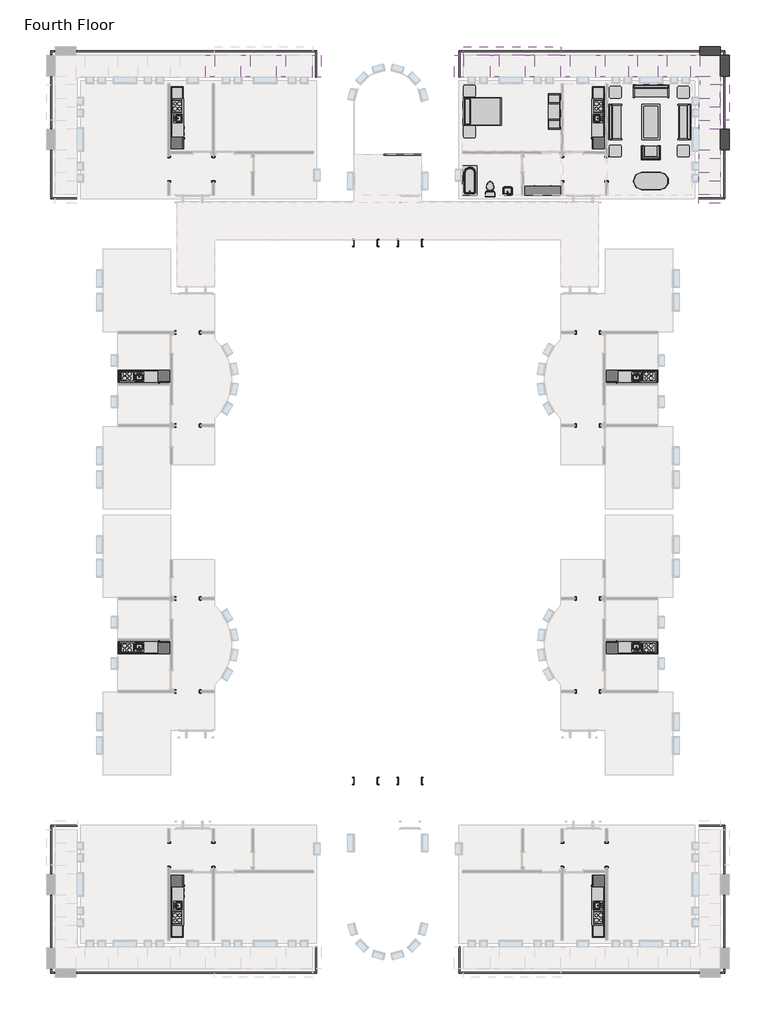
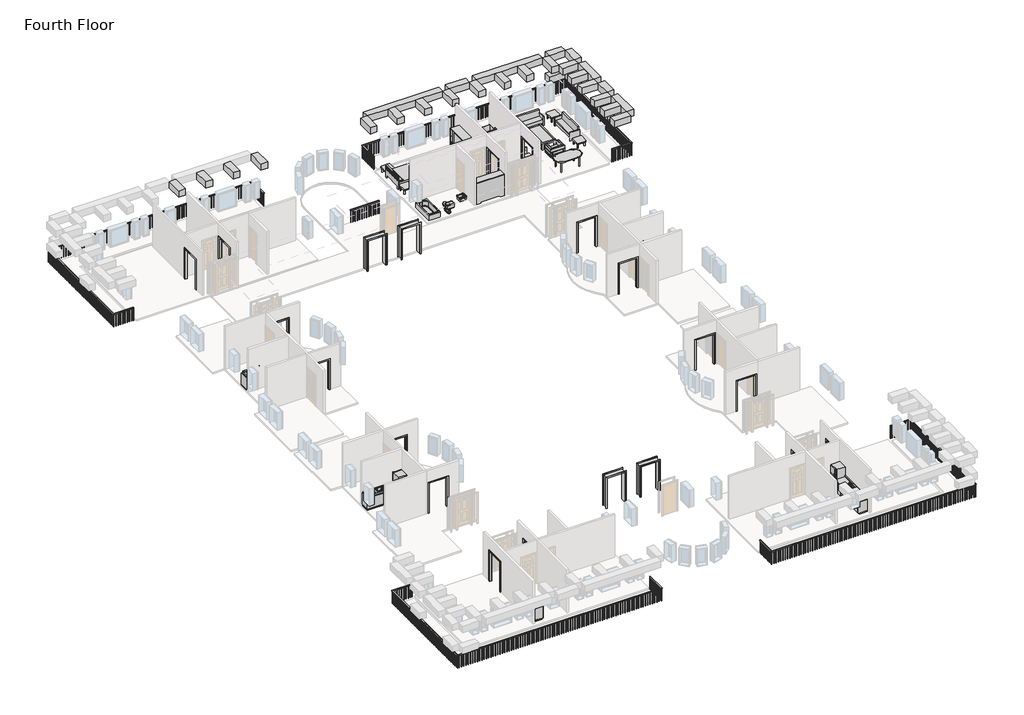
# One storey, part 5 of 5: 28 proxies, 23 beams, 15 furniture elements, 5 railings, 3 flow terminals.
"""IFC4 building model written with IfcOpenShell, lengths in millimetres."""

from ifc_helpers import new_model, si_unit, frame, origin, place, context, project, spatial, polyline, outline, extrude, faceted_brep, transform, mapped, element, save
from components import kitchenette_medium_5_9f73a4de, kitchenette_medium_5_952fb32b, proxy_64a468c4, proxy_b7eaed23, proxy_f44482cc, proxy_c3589814, proxy_d58c73d0, proxy_1659ed5c, flow_terminal_0aeb31e3, toilet_domestic_3d_toilet_domestic_3d_f7549cf7, toilet_domestic_3d_toilet_domestic_3d_183bbd19, tub_rectangular_3d_tub_rectangular_3d_5e45a89b, furniture_096e7f55, chair_corbu_chair_corbu_2764bdef, furniture_7c473f12, furniture_ddc78764, furniture_4ef38d96, furniture_cd93a443, furniture_2c34a4f9, furniture_3a588284, furniture_1befe2a2, handrail_rectangular_d296d626, handrail_rectangular_3cb95b5f, handrail_rectangular_46134f40, handrail_rectangular_d3f7d17f, handrail_rectangular_77feda68

model = new_model("IFC4")

# Units and contexts
model_context = context("Model", 3, world=origin())
ifc_project = project(units=[si_unit("LENGTHUNIT", "METRE", prefix="MILLI")], contexts=[model_context])

# Site, building, storey
site = spatial("IfcSite", under=ifc_project)
building = spatial("IfcBuilding", under=site)
storey = spatial("IfcBuildingStorey", under=building, Name="Fourth Floor", Elevation=9144.0)

# Beams
placement = place(None, origin())
element("IfcBeam", 1, ObjectType="Concrete-Rectangular Beam : 18 x 18", at=placement, inside=storey, context=model_context, shape_type="Brep", body=[
    faceted_brep([(2093.9410437, 11741.6316867, 12192.0), (2093.9410437, 12198.8316867, 12192.0), (1027.1410437, 12198.8316867, 12192.0), (1027.1410437, 11741.6316867, 12192.0), (2093.9410437, 11741.6316867, 11734.8), (1027.1410437, 11741.6316867, 11734.8), (2093.9410437, 12198.8316867, 11734.8), (1027.1410437, 12198.8316867, 11734.8)], [[[0, 1, 2, 3]], [[4, 0, 3, 5]], [[6, 4, 5, 7]], [[1, 6, 7, 2]], [[1, 0, 4, 6]], [[3, 2, 7, 5]]]),
    faceted_brep([(569.9410437, 12198.8316867, 12192.0), (569.9410437, 11741.6316867, 12192.0), (569.9410437, 11741.6316867, 11734.8), (569.9410437, 12198.8316867, 11734.8), (-3862.3589563, 12198.8316867, 12192.0), (-3862.3589563, 11741.6316867, 12192.0), (-2636.8089563, 11741.6316867, 12192.0), (-2179.6089563, 11741.6316867, 12192.0), (-1112.8089563, 11741.6316867, 12192.0), (-655.6089563, 11741.6316867, 12192.0), (-3862.3589563, 11741.6316867, 11734.8), (-2636.8089563, 11741.6316867, 11734.8), (-2179.6089563, 11741.6316867, 11734.8), (-1112.8089563, 11741.6316867, 11734.8), (-655.6089563, 11741.6316867, 11734.8), (-3862.3589563, 12198.8316867, 11734.8)], [[[0, 1, 2, 3]], [[1, 0, 4, 5, 6, 7, 8, 9]], [[2, 1, 9, 8, 7, 6, 5, 10, 11, 12, 13, 14]], [[3, 2, 14, 13, 12, 11, 10, 15]], [[0, 3, 15, 4]], [[5, 4, 15, 10]]]),
    faceted_brep([(-5665.7589563, 11741.6316867, 12192.0), (-5665.7589563, 12198.8316867, 12192.0), (-5665.7589563, 12198.8316867, 11734.8), (-5665.7589563, 11741.6316867, 11734.8), (-4319.5589563, 12198.8316867, 12192.0), (-4319.5589563, 11741.6316867, 12192.0), (-4319.5589563, 11741.6316867, 11734.8), (-4319.5589563, 12198.8316867, 11734.8)], [[[0, 1, 2, 3]], [[4, 5, 6, 7]], [[1, 0, 5, 4]], [[0, 3, 6, 5]], [[3, 2, 7, 6]], [[2, 1, 4, 7]]]),
    faceted_brep([(-6122.9589563, 12198.8316867, 12192.0), (-6122.9589563, 11741.6316867, 12192.0), (-6122.9589563, 11741.6316867, 11734.8), (-6122.9589563, 12198.8316867, 11734.8), (-11164.8589563, 12198.8316867, 12192.0), (-11164.8589563, 11741.6316867, 12192.0), (-9780.5589563, 11741.6316867, 12192.0), (-9323.3589563, 11741.6316867, 12192.0), (-7951.7589563, 11741.6316867, 12192.0), (-7494.5589563, 11741.6316867, 12192.0), (-11164.8589563, 11741.6316867, 11734.8), (-9780.5589563, 11741.6316867, 11734.8), (-9323.3589563, 11741.6316867, 11734.8), (-7951.7589563, 11741.6316867, 11734.8), (-7494.5589563, 11741.6316867, 11734.8), (-11164.8589563, 12198.8316867, 11734.8)], [[[0, 1, 2, 3]], [[1, 0, 4, 5, 6, 7, 8, 9]], [[2, 1, 9, 8, 7, 6, 5, 10, 11, 12, 13, 14]], [[3, 2, 14, 13, 12, 11, 10, 15]], [[0, 3, 15, 4]], [[5, 4, 15, 10]]]),
])
element("IfcBeam", 2, ObjectType="Concrete-Rectangular Beam : 18 x 18", at=placement, inside=storey, context=model_context, shape_type="Brep", body=[
    faceted_brep([(2551.1410437, 11741.6316867, 12192.0), (2093.9410437, 11741.6316867, 12192.0), (2093.9410437, 10674.8316867, 12192.0), (2551.1410437, 10674.8316867, 12192.0), (2093.9410437, 11741.6316867, 11734.8), (2093.9410437, 10674.8316867, 11734.8), (2551.1410437, 11741.6316867, 11734.8), (2551.1410437, 10674.8316867, 11734.8)], [[[0, 1, 2, 3]], [[1, 4, 5, 2]], [[4, 6, 7, 5]], [[6, 0, 3, 7]], [[4, 1, 0, 6]], [[3, 2, 5, 7]]]),
    faceted_brep([(2551.1410437, 4578.8316867, 12192.0), (2093.9410437, 4578.8316867, 12192.0), (2093.9410437, 4578.8316867, 11734.8), (2551.1410437, 4578.8316867, 11734.8), (2093.9410437, 6407.6316867, 12192.0), (2551.1410437, 6407.6316867, 12192.0), (2551.1410437, 6407.6316867, 11734.8), (2093.9410437, 6407.6316867, 11734.8), (2093.9410437, 5721.8316867, 12192.0), (2093.9410437, 5264.6316867, 12192.0), (2093.9410437, 5721.8316867, 11734.8), (2093.9410437, 5264.6316867, 11734.8)], [[[0, 1, 2, 3]], [[4, 5, 6, 7]], [[1, 0, 5, 4, 8, 9]], [[2, 1, 9, 8, 4, 7, 10, 11]], [[3, 2, 11, 10, 7, 6]], [[0, 3, 6, 5]]]),
    faceted_brep([(2551.1410437, 6864.8316867, 12192.0), (2093.9410437, 6864.8316867, 12192.0), (2093.9410437, 6864.8316867, 11734.8), (2551.1410437, 6864.8316867, 11734.8), (2551.1410437, 7931.6316867, 12192.0), (2093.9410437, 7931.6316867, 12192.0), (2093.9410437, 7931.6316867, 11734.8), (2551.1410437, 7931.6316867, 11734.8)], [[[0, 1, 2, 3]], [[1, 0, 4, 5]], [[2, 1, 5, 6]], [[3, 2, 6, 7]], [[0, 3, 7, 4]], [[5, 4, 7, 6]]]),
    faceted_brep([(2093.9410437, 10217.6316867, 12192.0), (2551.1410437, 10217.6316867, 12192.0), (2551.1410437, 10217.6316867, 11734.8), (2093.9410437, 10217.6316867, 11734.8), (2551.1410437, 8388.8316867, 12192.0), (2093.9410437, 8388.8316867, 12192.0), (2093.9410437, 8388.8316867, 11734.8), (2551.1410437, 8388.8316867, 11734.8), (2093.9410437, 9531.8316867, 12192.0), (2093.9410437, 9074.6316867, 12192.0), (2093.9410437, 9531.8316867, 11734.8), (2093.9410437, 9074.6316867, 11734.8)], [[[0, 1, 2, 3]], [[4, 5, 6, 7]], [[1, 0, 8, 9, 5, 4]], [[0, 3, 10, 11, 6, 5, 9, 8]], [[3, 2, 7, 6, 11, 10]], [[2, 1, 4, 7]]]),
])
element("IfcBeam", 3, ObjectType="Concrete-Rectangular Beam : 18 x 18", at=placement, inside=storey, context=model_context, shape_type="SweptSolid", body=[
    extrude(outline(polyline([(2093.9410437, 12198.8316867), (2093.9410437, 11741.6316867), (1027.1410437, 11741.6316867), (1027.1410437, 12198.8316867), (2093.9410437, 12198.8316867)])), frame((0.0, 0.0, 10210.8), z_axis=(0.0, 0.0, 1.0), x_axis=(1.0, 0.0, 0.0)), (0.0, 0.0, 1.0), 457.2),
])
element("IfcBeam", 4, ObjectType="Concrete-Rectangular Beam : 18 x 18", at=placement, inside=storey, context=model_context, shape_type="SweptSolid", body=[
    extrude(outline(polyline([(2551.1410437, 10674.8316867), (2093.9410437, 10674.8316867), (2093.9410437, 11741.6316867), (2551.1410437, 11741.6316867), (2551.1410437, 10674.8316867)])), frame((0.0, 0.0, 10210.8), z_axis=(0.0, 0.0, 1.0), x_axis=(1.0, 0.0, 0.0)), (0.0, 0.0, 1.0), 457.2),
])
element("IfcBeam", 5, ObjectType="Concrete-Rectangular Beam : 18 x 18", at=placement, inside=storey, context=model_context, shape_type="SweptSolid", body=[
    extrude(outline(polyline([(-11164.8589563, 10624.0316867), (-11622.0589563, 10624.0316867), (-11622.0589563, 11741.6316867), (-11164.8589563, 11741.6316867), (-11164.8589563, 10624.0316867)])), frame((0.0, 0.0, 11734.8), z_axis=(0.0, 0.0, 1.0), x_axis=(1.0, 0.0, 0.0)), (0.0, 0.0, 1.0), 457.2),
])
element("IfcBeam", 6, ObjectType="Concrete-Rectangular Beam : 18 x 18", at=placement, inside=storey, context=model_context, shape_type="SweptSolid", body=[
    extrude(outline(polyline([(-5665.7589563, 10643.0816867), (-6122.9589563, 10643.0816867), (-6122.9589563, 11741.6316867), (-5665.7589563, 11741.6316867), (-5665.7589563, 10643.0816867)])), frame((0.0, 0.0, 11734.8), z_axis=(0.0, 0.0, 1.0), x_axis=(1.0, 0.0, 0.0)), (0.0, 0.0, 1.0), 457.2),
])
element("IfcBeam", 7, ObjectType="Concrete-Rectangular Beam : 18 x 18", at=placement, inside=storey, context=model_context, shape_type="SweptSolid", body=[
    extrude(outline(polyline([(1001.7410437, 6407.6316867), (1001.7410437, 6864.8316867), (2093.9410437, 6864.8316867), (2093.9410437, 6407.6316867), (1001.7410437, 6407.6316867)])), frame((0.0, 0.0, 11734.8), z_axis=(0.0, 0.0, 1.0), x_axis=(1.0, 0.0, 0.0)), (0.0, 0.0, 1.0), 457.2),
])
element("IfcBeam", 8, ObjectType="Concrete-Rectangular Beam : 18 x 18", at=placement, inside=storey, context=model_context, shape_type="SweptSolid", body=[
    extrude(outline(polyline([(-3862.3589563, 10643.0816867), (-4319.5589563, 10643.0816867), (-4319.5589563, 11741.6316867), (-3862.3589563, 11741.6316867), (-3862.3589563, 10643.0816867)])), frame((0.0, 0.0, 11734.8), z_axis=(0.0, 0.0, 1.0), x_axis=(1.0, 0.0, 0.0)), (0.0, 0.0, 1.0), 457.2),
])
element("IfcBeam", 9, ObjectType="Concrete-Rectangular Beam : 18 x 18", at=placement, inside=storey, context=model_context, shape_type="SweptSolid", body=[
    extrude(outline(polyline([(1001.7410437, 7931.6316867), (1001.7410437, 8388.8316867), (2093.9410437, 8388.8316867), (2093.9410437, 7931.6316867), (1001.7410437, 7931.6316867)])), frame((0.0, 0.0, 11734.8), z_axis=(0.0, 0.0, 1.0), x_axis=(1.0, 0.0, 0.0)), (0.0, 0.0, 1.0), 457.2),
])
element("IfcBeam", 10, ObjectType="Concrete-Rectangular Beam : 18 x 18", at=placement, inside=storey, context=model_context, shape_type="SweptSolid", body=[
    extrude(outline(polyline([(976.3410437, 4121.6316867), (976.3410437, 4578.8316867), (2093.9410437, 4578.8316867), (2093.9410437, 4121.6316867), (976.3410437, 4121.6316867)])), frame((0.0, 0.0, 11734.8), z_axis=(0.0, 0.0, 1.0), x_axis=(1.0, 0.0, 0.0)), (0.0, 0.0, 1.0), 457.2),
])
element("IfcBeam", 11, ObjectType="Concrete-Rectangular Beam : 18 x 18", at=placement, inside=storey, context=model_context, shape_type="SweptSolid", body=[
    extrude(outline(polyline([(976.3410437, 5264.6316867), (976.3410437, 5721.8316867), (2093.9410437, 5721.8316867), (2093.9410437, 5264.6316867), (976.3410437, 5264.6316867)])), frame((0.0, 0.0, 11734.8), z_axis=(0.0, 0.0, 1.0), x_axis=(1.0, 0.0, 0.0)), (0.0, 0.0, 1.0), 457.2),
])
element("IfcBeam", 12, ObjectType="Concrete-Rectangular Beam : 18 x 18", at=placement, inside=storey, context=model_context, shape_type="SweptSolid", body=[
    extrude(outline(polyline([(1027.1410437, 10643.0816867), (569.9410437, 10643.0816867), (569.9410437, 11741.6316867), (1027.1410437, 11741.6316867), (1027.1410437, 10643.0816867)])), frame((0.0, 0.0, 11734.8), z_axis=(0.0, 0.0, 1.0), x_axis=(1.0, 0.0, 0.0)), (0.0, 0.0, 1.0), 457.2),
])
element("IfcBeam", 13, ObjectType="Concrete-Rectangular Beam : 18 x 18", at=placement, inside=storey, context=model_context, shape_type="SweptSolid", body=[
    extrude(outline(polyline([(1052.5410437, 10217.6316867), (1052.5410437, 10674.8316867), (2093.9410437, 10674.8316867), (2093.9410437, 10217.6316867), (1052.5410437, 10217.6316867)])), frame((0.0, 0.0, 11734.8), z_axis=(0.0, 0.0, 1.0), x_axis=(1.0, 0.0, 0.0)), (0.0, 0.0, 1.0), 457.2),
])
element("IfcBeam", 14, ObjectType="Concrete-Rectangular Beam : 18 x 18", at=placement, inside=storey, context=model_context, shape_type="SweptSolid", body=[
    extrude(outline(polyline([(1001.7410437, 9074.6316867), (1001.7410437, 9531.8316867), (2093.9410437, 9531.8316867), (2093.9410437, 9074.6316867), (1001.7410437, 9074.6316867)])), frame((0.0, 0.0, 11734.8), z_axis=(0.0, 0.0, 1.0), x_axis=(1.0, 0.0, 0.0)), (0.0, 0.0, 1.0), 457.2),
])
element("IfcBeam", 15, ObjectType="Concrete-Rectangular Beam : 18 x 18", at=placement, inside=storey, context=model_context, shape_type="SweptSolid", body=[
    extrude(outline(polyline([(-2179.6089563, 10643.0816867), (-2636.8089563, 10643.0816867), (-2636.8089563, 11741.6316867), (-2179.6089563, 11741.6316867), (-2179.6089563, 10643.0816867)])), frame((0.0, 0.0, 11734.8), z_axis=(0.0, 0.0, 1.0), x_axis=(1.0, 0.0, 0.0)), (0.0, 0.0, 1.0), 457.2),
])
element("IfcBeam", 16, ObjectType="Concrete-Rectangular Beam : 18 x 18", at=placement, inside=storey, context=model_context, shape_type="SweptSolid", body=[
    extrude(outline(polyline([(-655.6089563, 10643.0816867), (-1112.8089563, 10643.0816867), (-1112.8089563, 11741.6316867), (-655.6089563, 11741.6316867), (-655.6089563, 10643.0816867)])), frame((0.0, 0.0, 11734.8), z_axis=(0.0, 0.0, 1.0), x_axis=(1.0, 0.0, 0.0)), (0.0, 0.0, 1.0), 457.2),
])
element("IfcBeam", 17, ObjectType="Concrete-Rectangular Beam : 18 x 18", at=placement, inside=storey, context=model_context, shape_type="SweptSolid", body=[
    extrude(outline(polyline([(-7494.5589563, 10643.0816867), (-7951.7589563, 10643.0816867), (-7951.7589563, 11741.6316867), (-7494.5589563, 11741.6316867), (-7494.5589563, 10643.0816867)])), frame((0.0, 0.0, 11734.8), z_axis=(0.0, 0.0, 1.0), x_axis=(1.0, 0.0, 0.0)), (0.0, 0.0, 1.0), 457.2),
])
element("IfcBeam", 18, ObjectType="Concrete-Rectangular Beam : 18 x 18", at=placement, inside=storey, context=model_context, shape_type="SweptSolid", body=[
    extrude(outline(polyline([(-9323.3589563, 10643.0816867), (-9780.5589563, 10643.0816867), (-9780.5589563, 11741.6316867), (-9323.3589563, 11741.6316867), (-9323.3589563, 10643.0816867)])), frame((0.0, 0.0, 11734.8), z_axis=(0.0, 0.0, 1.0), x_axis=(1.0, 0.0, 0.0)), (0.0, 0.0, 1.0), 457.2),
])
element("IfcBeam", 19, ObjectType="Concrete-Rectangular Beam : 18 x 18", at=placement, inside=storey, context=model_context, shape_type="SweptSolid", body=[
    extrude(outline(polyline([(2551.1410437, 6864.8316867), (2093.9410437, 6864.8316867), (2093.9410437, 7931.6316867), (2551.1410437, 7931.6316867), (2551.1410437, 6864.8316867)])), frame((0.0, 0.0, 10210.8), z_axis=(0.0, 0.0, 1.0), x_axis=(1.0, 0.0, 0.0)), (0.0, 0.0, 1.0), 457.2),
])
element("IfcBeam", 20, ObjectType="Concrete-Rectangular Beam : 18 x 18", at=placement, inside=storey, context=model_context, shape_type="SweptSolid", body=[
    extrude(outline(polyline([(-18502.2839563, 10624.0316867), (-18959.4839563, 10624.0316867), (-18959.4839563, 11741.6316867), (-18502.2839563, 11741.6316867), (-18502.2839563, 10624.0316867)])), frame((0.0, 0.0, 11734.8), z_axis=(0.0, 0.0, 1.0), x_axis=(1.0, 0.0, 0.0)), (0.0, 0.0, 1.0), 457.2),
])
element("IfcBeam", 21, ObjectType="Concrete-Rectangular Beam : 18 x 18", at=placement, inside=storey, context=model_context, shape_type="SweptSolid", body=[
    extrude(outline(polyline([(-24001.3839563, 10643.0816867), (-24458.5839563, 10643.0816867), (-24458.5839563, 11741.6316867), (-24001.3839563, 11741.6316867), (-24001.3839563, 10643.0816867)])), frame((0.0, 0.0, 11734.8), z_axis=(0.0, 0.0, 1.0), x_axis=(1.0, 0.0, 0.0)), (0.0, 0.0, 1.0), 457.2),
])
element("IfcBeam", 22, ObjectType="Concrete-Rectangular Beam : 18 x 18", at=placement, inside=storey, context=model_context, shape_type="SweptSolid", body=[
    extrude(outline(polyline([(-22172.5839563, 10643.0816867), (-22629.7839563, 10643.0816867), (-22629.7839563, 11741.6316867), (-22172.5839563, 11741.6316867), (-22172.5839563, 10643.0816867)])), frame((0.0, 0.0, 11734.8), z_axis=(0.0, 0.0, 1.0), x_axis=(1.0, 0.0, 0.0)), (0.0, 0.0, 1.0), 457.2),
])
element("IfcBeam", 23, ObjectType="Concrete-Rectangular Beam : 18 x 18", at=placement, inside=storey, context=model_context, shape_type="SweptSolid", body=[
    extrude(outline(polyline([(-20343.7839563, 10643.0816867), (-20800.9839563, 10643.0816867), (-20800.9839563, 11741.6316867), (-20343.7839563, 11741.6316867), (-20343.7839563, 10643.0816867)])), frame((0.0, 0.0, 11734.8), z_axis=(0.0, 0.0, 1.0), x_axis=(1.0, 0.0, 0.0)), (0.0, 0.0, 1.0), 457.2),
])

# Proxies
kitchenette_medium_5_shape = kitchenette_medium_5_9f73a4de(model_context)
element("IfcBuildingElementProxy", 24, Name="Kitchenette - Medium : 5'", ObjectType="Kitchenette - Medium : 5'", at=placement, inside=storey, context=model_context, shape_type="MappedRepresentation", body=[
    mapped(kitchenette_medium_5_shape, transform((-28239.6966612, -4494.4827414, 9144.0), x_axis=(1.0, 0.0, 0.0), y_axis=(0.0, 1.0, 0.0), z_axis=(0.0, 0.0, 1.0))),
])
element("IfcBuildingElementProxy", 25, Name="Kitchenette - Medium : 5'", ObjectType="Kitchenette - Medium : 5'", at=placement, inside=storey, context=model_context, shape_type="MappedRepresentation", body=[
    mapped(kitchenette_medium_5_shape, transform((-1884.6462514, -19113.8538852, 9144.0), x_axis=(-1.0, 0.0, 0.0), y_axis=(0.0, -1.0, 0.0), z_axis=(0.0, 0.0, 1.0))),
])
kitchenette_medium_5_2_shape = kitchenette_medium_5_952fb32b(model_context)
element("IfcBuildingElementProxy", 26, Name="Kitchenette - Medium : 5'", ObjectType="Kitchenette - Medium : 5'", at=placement, inside=storey, context=model_context, shape_type="MappedRepresentation", body=[
    mapped(kitchenette_medium_5_2_shape, transform((-1884.6462514, -4494.4827414, 9144.0), x_axis=(-1.0, 0.0, 0.0), y_axis=(0.0, -1.0, 0.0), z_axis=(0.0, 0.0, 1.0))),
])
element("IfcBuildingElementProxy", 27, Name="Kitchenette - Medium : 5'", ObjectType="Kitchenette - Medium : 5'", at=placement, inside=storey, context=model_context, shape_type="MappedRepresentation", body=[
    mapped(kitchenette_medium_5_2_shape, transform((-28239.6966612, -19113.8538852, 9144.0), x_axis=(1.0, 0.0, 0.0), y_axis=(0.0, 1.0, 0.0), z_axis=(0.0, 0.0, 1.0))),
])
proxy_shape = proxy_64a468c4(model_context)
element("IfcBuildingElementProxy", 28, Name="Kitchenette - Medium : 8'6\"", ObjectType="Kitchenette - Medium : 8'6\"", at=placement, inside=storey, context=model_context, shape_type="MappedRepresentation", body=[
    mapped(proxy_shape, transform((-3887.7589563, 8837.7956433, 9144.0), x_axis=(0.0, -1.0, 0.0), y_axis=(1.0, 0.0, 0.0), z_axis=(0.0, 0.0, 1.0))),
])
element("IfcBuildingElementProxy", 29, Name="Kitchenette - Medium : 8'6\"", ObjectType="Kitchenette - Medium : 8'6\"", at=placement, inside=storey, context=model_context, shape_type="MappedRepresentation", body=[
    mapped(proxy_shape, transform((-26236.5839563, -32446.1322699, 9144.0), x_axis=(0.0, 1.0, 0.0), y_axis=(-1.0, 0.0, 0.0), z_axis=(0.0, 0.0, 1.0))),
])
proxy_2_shape = proxy_b7eaed23(model_context)
element("IfcBuildingElementProxy", 30, Name="Kitchenette - Medium : 8'6\"", ObjectType="Kitchenette - Medium : 8'6\"", at=placement, inside=storey, context=model_context, shape_type="MappedRepresentation", body=[
    mapped(proxy_2_shape, transform((-26236.5839563, 8837.7956433, 9144.0), x_axis=(0.0, -1.0, 0.0), y_axis=(1.0, 0.0, 0.0), z_axis=(0.0, 0.0, 1.0))),
])
element("IfcBuildingElementProxy", 31, Name="Kitchenette - Medium : 8'6\"", ObjectType="Kitchenette - Medium : 8'6\"", at=placement, inside=storey, context=model_context, shape_type="MappedRepresentation", body=[
    mapped(proxy_2_shape, transform((-3887.7589563, -32446.1322699, 9144.0), x_axis=(0.0, 1.0, 0.0), y_axis=(-1.0, 0.0, 0.0), z_axis=(0.0, 0.0, 1.0))),
])
proxy_3_shape = proxy_f44482cc(model_context)
element("IfcBuildingElementProxy", 32, Name="Opening-Cased : 48\" x 84\"", ObjectType="Opening-Cased : 48\" x 84\"", at=placement, inside=storey, context=model_context, shape_type="MappedRepresentation", body=[
    mapped(proxy_3_shape, transform((-3773.4589563, 5882.4203434, 9144.0), x_axis=(0.0, 1.0, 0.0), y_axis=(-1.0, 0.0, 0.0), z_axis=(0.0, 0.0, 1.0))),
])
element("IfcBuildingElementProxy", 33, Name="Opening-Cased : 48\" x 84\"", ObjectType="Opening-Cased : 48\" x 84\"", at=placement, inside=storey, context=model_context, shape_type="MappedRepresentation", body=[
    mapped(proxy_3_shape, transform((-6059.4589563, 5866.04303, 9144.0), x_axis=(0.0, -1.0, 0.0), y_axis=(1.0, 0.0, 0.0), z_axis=(0.0, 0.0, 1.0))),
])
element("IfcBuildingElementProxy", 34, Name="Opening-Cased : 48\" x 84\"", ObjectType="Opening-Cased : 48\" x 84\"", at=placement, inside=storey, context=model_context, shape_type="MappedRepresentation", body=[
    mapped(proxy_3_shape, transform((-25377.4952996, -7344.8808133, 9144.0), x_axis=(1.0, 0.0, 0.0), y_axis=(0.0, 1.0, 0.0), z_axis=(0.0, 0.0, 1.0))),
])
element("IfcBuildingElementProxy", 35, Name="Opening-Cased : 48\" x 84\"", ObjectType="Opening-Cased : 48\" x 84\"", at=placement, inside=storey, context=model_context, shape_type="MappedRepresentation", body=[
    mapped(proxy_3_shape, transform((-25393.872613, -2547.4558133, 9144.0), x_axis=(-1.0, 0.0, 0.0), y_axis=(0.0, -1.0, 0.0), z_axis=(0.0, 0.0, 1.0))),
])
element("IfcBuildingElementProxy", 36, Name="Opening-Cased : 48\" x 84\"", ObjectType="Opening-Cased : 48\" x 84\"", at=placement, inside=storey, context=model_context, shape_type="MappedRepresentation", body=[
    mapped(proxy_3_shape, transform((-4746.847613, -16263.4558133, 9144.0), x_axis=(-1.0, 0.0, 0.0), y_axis=(0.0, -1.0, 0.0), z_axis=(0.0, 0.0, 1.0))),
])
element("IfcBuildingElementProxy", 37, Name="Opening-Cased : 48\" x 84\"", ObjectType="Opening-Cased : 48\" x 84\"", at=placement, inside=storey, context=model_context, shape_type="MappedRepresentation", body=[
    mapped(proxy_3_shape, transform((-4730.4702996, -21060.8808133, 9144.0), x_axis=(1.0, 0.0, 0.0), y_axis=(0.0, 1.0, 0.0), z_axis=(0.0, 0.0, 1.0))),
])
element("IfcBuildingElementProxy", 38, Name="Opening-Cased : 48\" x 84\"", ObjectType="Opening-Cased : 48\" x 84\"", at=placement, inside=storey, context=model_context, shape_type="MappedRepresentation", body=[
    mapped(proxy_3_shape, transform((-26350.8839563, -29490.75697, 9144.0), x_axis=(0.0, -1.0, 0.0), y_axis=(1.0, 0.0, 0.0), z_axis=(0.0, 0.0, 1.0))),
])
element("IfcBuildingElementProxy", 39, Name="Opening-Cased : 48\" x 84\"", ObjectType="Opening-Cased : 48\" x 84\"", at=placement, inside=storey, context=model_context, shape_type="MappedRepresentation", body=[
    mapped(proxy_3_shape, transform((-24064.8839563, -29474.3796566, 9144.0), x_axis=(0.0, 1.0, 0.0), y_axis=(-1.0, 0.0, 0.0), z_axis=(0.0, 0.0, 1.0))),
])
proxy_4_shape = proxy_c3589814(model_context)
element("IfcBuildingElementProxy", 40, Name="Opening-Cased : 48\" x 84\"", ObjectType="Opening-Cased : 48\" x 84\"", at=placement, inside=storey, context=model_context, shape_type="MappedRepresentation", body=[
    mapped(proxy_4_shape, transform((-16213.360113, 2064.2316867, 9144.0), x_axis=(-1.0, 0.0, 0.0), y_axis=(0.0, -1.0, 0.0), z_axis=(0.0, 0.0, 1.0))),
])
element("IfcBuildingElementProxy", 41, Name="Opening-Cased : 48\" x 84\"", ObjectType="Opening-Cased : 48\" x 84\"", at=placement, inside=storey, context=model_context, shape_type="MappedRepresentation", body=[
    mapped(proxy_4_shape, transform((-13927.360113, 2064.2316867, 9144.0), x_axis=(-1.0, 0.0, 0.0), y_axis=(0.0, -1.0, 0.0), z_axis=(0.0, 0.0, 1.0))),
])
proxy_5_shape = proxy_d58c73d0(model_context)
element("IfcBuildingElementProxy", 42, Name="Opening-Cased : 48\" x 84\"", ObjectType="Opening-Cased : 48\" x 84\"", at=placement, inside=storey, context=model_context, shape_type="MappedRepresentation", body=[
    mapped(proxy_5_shape, transform((-4746.847613, -7344.8808133, 9144.0), x_axis=(-1.0, 0.0, 0.0), y_axis=(0.0, -1.0, 0.0), z_axis=(0.0, 0.0, 1.0))),
])
element("IfcBuildingElementProxy", 43, Name="Opening-Cased : 48\" x 84\"", ObjectType="Opening-Cased : 48\" x 84\"", at=placement, inside=storey, context=model_context, shape_type="MappedRepresentation", body=[
    mapped(proxy_5_shape, transform((-4730.4702996, -2547.4558133, 9144.0), x_axis=(1.0, 0.0, 0.0), y_axis=(0.0, 1.0, 0.0), z_axis=(0.0, 0.0, 1.0))),
])
element("IfcBuildingElementProxy", 44, Name="Opening-Cased : 48\" x 84\"", ObjectType="Opening-Cased : 48\" x 84\"", at=placement, inside=storey, context=model_context, shape_type="MappedRepresentation", body=[
    mapped(proxy_5_shape, transform((-26350.8839563, 5882.4203434, 9144.0), x_axis=(0.0, 1.0, 0.0), y_axis=(-1.0, 0.0, 0.0), z_axis=(0.0, 0.0, 1.0))),
])
element("IfcBuildingElementProxy", 45, Name="Opening-Cased : 48\" x 84\"", ObjectType="Opening-Cased : 48\" x 84\"", at=placement, inside=storey, context=model_context, shape_type="MappedRepresentation", body=[
    mapped(proxy_5_shape, transform((-24064.8839563, 5866.04303, 9144.0), x_axis=(0.0, -1.0, 0.0), y_axis=(1.0, 0.0, 0.0), z_axis=(0.0, 0.0, 1.0))),
])
element("IfcBuildingElementProxy", 46, Name="Opening-Cased : 48\" x 84\"", ObjectType="Opening-Cased : 48\" x 84\"", at=placement, inside=storey, context=model_context, shape_type="MappedRepresentation", body=[
    mapped(proxy_5_shape, transform((-3773.4589563, -29490.75697, 9144.0), x_axis=(0.0, -1.0, 0.0), y_axis=(1.0, 0.0, 0.0), z_axis=(0.0, 0.0, 1.0))),
])
element("IfcBuildingElementProxy", 47, Name="Opening-Cased : 48\" x 84\"", ObjectType="Opening-Cased : 48\" x 84\"", at=placement, inside=storey, context=model_context, shape_type="MappedRepresentation", body=[
    mapped(proxy_5_shape, transform((-6059.4589563, -29474.3796566, 9144.0), x_axis=(0.0, 1.0, 0.0), y_axis=(-1.0, 0.0, 0.0), z_axis=(0.0, 0.0, 1.0))),
])
element("IfcBuildingElementProxy", 48, Name="Opening-Cased : 48\" x 84\"", ObjectType="Opening-Cased : 48\" x 84\"", at=placement, inside=storey, context=model_context, shape_type="MappedRepresentation", body=[
    mapped(proxy_5_shape, transform((-25377.4952996, -16263.4558133, 9144.0), x_axis=(1.0, 0.0, 0.0), y_axis=(0.0, 1.0, 0.0), z_axis=(0.0, 0.0, 1.0))),
])
element("IfcBuildingElementProxy", 49, Name="Opening-Cased : 48\" x 84\"", ObjectType="Opening-Cased : 48\" x 84\"", at=placement, inside=storey, context=model_context, shape_type="MappedRepresentation", body=[
    mapped(proxy_5_shape, transform((-25393.872613, -21060.8808133, 9144.0), x_axis=(-1.0, 0.0, 0.0), y_axis=(0.0, -1.0, 0.0), z_axis=(0.0, 0.0, 1.0))),
])
proxy_6_shape = proxy_1659ed5c(model_context)
element("IfcBuildingElementProxy", 50, Name="Opening-Cased : 48\" x 84\"", ObjectType="Opening-Cased : 48\" x 84\"", at=placement, inside=storey, context=model_context, shape_type="MappedRepresentation", body=[
    mapped(proxy_6_shape, transform((-16213.360113, -25672.5683133, 9144.0), x_axis=(-1.0, 0.0, 0.0), y_axis=(0.0, -1.0, 0.0), z_axis=(0.0, 0.0, 1.0))),
])
element("IfcBuildingElementProxy", 51, Name="Opening-Cased : 48\" x 84\"", ObjectType="Opening-Cased : 48\" x 84\"", at=placement, inside=storey, context=model_context, shape_type="MappedRepresentation", body=[
    mapped(proxy_6_shape, transform((-13927.360113, -25672.5683133, 9144.0), x_axis=(-1.0, 0.0, 0.0), y_axis=(0.0, -1.0, 0.0), z_axis=(0.0, 0.0, 1.0))),
])

# Flow terminals
flow_terminal_shape = flow_terminal_0aeb31e3(model_context)
element("IfcFlowTerminal", 52, ObjectType="Sink Vanity-Square : 24\" x 19\"", at=placement, inside=storey, context=model_context, shape_type="MappedRepresentation", body=[
    mapped(flow_terminal_shape, transform((-8864.7572157, 4706.5895878, 9144.0), x_axis=(-1.0, 0.0, 0.0), y_axis=(0.0, -1.0, 0.0), z_axis=(0.0, 0.0, 1.0))),
])
toilet_domestic_3d_toilet_domestic_3d_shape = toilet_domestic_3d_toilet_domestic_3d_f7549cf7(model_context)
toilet_domestic_3d_toilet_domestic_3d_2_shape = toilet_domestic_3d_toilet_domestic_3d_183bbd19(model_context)
element("IfcFlowTerminal", 53, ObjectType="Toilet-Domestic-3D : Toilet-Domestic-3D", at=placement, inside=storey, context=model_context, shape_type="MappedRepresentation", body=[
    mapped(toilet_domestic_3d_toilet_domestic_3d_shape, transform((-9782.1466587, 4940.866411, 9144.0), x_axis=(-1.0000000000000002, 0.0, 0.0), y_axis=(0.0, -1.0000000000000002, 0.0), z_axis=(0.0, 0.0, 1.0))),
    mapped(toilet_domestic_3d_toilet_domestic_3d_2_shape, transform((-9782.1466587, 4940.866411, 9144.0), x_axis=(-1.0000000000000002, 0.0, 0.0), y_axis=(0.0, -1.0000000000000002, 0.0), z_axis=(0.0, 0.0, 1.0))),
])
tub_rectangular_3d_tub_rectangular_3d_shape = tub_rectangular_3d_tub_rectangular_3d_5e45a89b(model_context)
element("IfcFlowTerminal", 54, ObjectType="Tub-Rectangular-3D : Tub-Rectangular-3D", at=placement, inside=storey, context=model_context, shape_type="MappedRepresentation", body=[
    mapped(tub_rectangular_3d_tub_rectangular_3d_shape, transform((-11393.4589563, 5637.0471554, 9144.0), x_axis=(0.0, 1.0, 0.0), y_axis=(-1.0, 0.0, 0.0), z_axis=(0.0, 0.0, 1.0))),
])

# Furniture
furniture_shape = furniture_096e7f55(model_context)
element("IfcFurniture", 55, ObjectType="Bed-Shaker : Double 56\" x 78\"", at=placement, inside=storey, context=model_context, shape_type="MappedRepresentation", body=[
    mapped(furniture_shape, transform((-11183.1982802, 8871.8755561, 9144.0), x_axis=(0.0, 1.0, 0.0), y_axis=(-1.0, 0.0, 0.0), z_axis=(0.0, 0.0, 1.0))),
])
chair_corbu_chair_corbu_shape = chair_corbu_chair_corbu_2764bdef(model_context)
element("IfcFurniture", 56, ObjectType="Chair-Corbu : Chair-Corbu", at=placement, inside=storey, context=model_context, shape_type="MappedRepresentation", body=[
    mapped(chair_corbu_chair_corbu_shape, transform((-914.0851858, 7193.4962359, 9144.0), x_axis=(-1.0, 0.0, 0.0), y_axis=(0.0, -1.0, 0.0), z_axis=(0.0, 0.0, 1.0))),
])
furniture_2_shape = furniture_7c473f12(model_context)
element("IfcFurniture", 57, ObjectType="Dresser : 72\" x 60\" x 18\"", at=placement, inside=storey, context=model_context, shape_type="MappedRepresentation", body=[
    mapped(furniture_2_shape, transform((-7344.6522161, 4404.5812326, 9144.0), x_axis=(-1.0, 0.0, 0.0), y_axis=(0.0, -1.0, 0.0), z_axis=(0.0, 0.0, 1.0))),
])
furniture_3_shape = furniture_ddc78764(model_context)
element("IfcFurniture", 58, ObjectType="Entertainment Center : 72\" x 72\" x 24\"", at=placement, inside=storey, context=model_context, shape_type="MappedRepresentation", body=[
    mapped(furniture_3_shape, transform((-6059.4589563, 8852.8255561, 9144.0), x_axis=(0.0, -1.0, 0.0), y_axis=(1.0, 0.0, 0.0), z_axis=(0.0, 0.0, 1.0))),
])
furniture_4_shape = furniture_4ef38d96(model_context)
element("IfcFurniture", 59, ObjectType="Sofa : 72\"", at=placement, inside=storey, context=model_context, shape_type="MappedRepresentation", body=[
    mapped(furniture_4_shape, transform((-1557.8294481, 9741.2775883, 9144.0), x_axis=(1.0, 0.0, 0.0), y_axis=(0.0, 1.0, 0.0), z_axis=(0.0, 0.0, 1.0))),
])
element("IfcFurniture", 60, ObjectType="Sofa : 72\"", at=placement, inside=storey, context=model_context, shape_type="MappedRepresentation", body=[
    mapped(furniture_4_shape, transform((93.5869453, 8383.0021785, 9144.0), x_axis=(0.0, -1.0, 0.0), y_axis=(1.0, 0.0, 0.0), z_axis=(0.0, 0.0, 1.0))),
])
element("IfcFurniture", 61, ObjectType="Sofa : 72\"", at=placement, inside=storey, context=model_context, shape_type="MappedRepresentation", body=[
    mapped(furniture_4_shape, transform((-3170.104858, 8242.2611949, 9144.0), x_axis=(0.0, 1.0, 0.0), y_axis=(-1.0, 0.0, 0.0), z_axis=(0.0, 0.0, 1.0))),
])
furniture_5_shape = furniture_cd93a443(model_context)
element("IfcFurniture", 62, ObjectType="Table-Coffee : 36\" x 72\" x 18\"", at=placement, inside=storey, context=model_context, shape_type="MappedRepresentation", body=[
    mapped(furniture_5_shape, transform((-1582.6700341, 8330.8974534, 9144.0), x_axis=(0.0, -1.0, 0.0), y_axis=(1.0, 0.0, 0.0), z_axis=(0.0, 0.0, 1.0))),
])
furniture_6_shape = furniture_2c34a4f9(model_context)
element("IfcFurniture", 63, ObjectType="Table-Dining Oval : 36\" x 72\"", at=placement, inside=storey, context=model_context, shape_type="MappedRepresentation", body=[
    mapped(furniture_6_shape, transform((-1085.6392842, 5622.7300473, 9144.0), x_axis=(1.0, 0.0, 0.0), y_axis=(0.0, 1.0, 0.0), z_axis=(0.0, 0.0, 1.0))),
])
furniture_7_shape = furniture_3a588284(model_context)
element("IfcFurniture", 64, ObjectType="Table-End : 24\" x 24\"", at=placement, inside=storey, context=model_context, shape_type="MappedRepresentation", body=[
    mapped(furniture_7_shape, transform((-119.5925866, 9684.2316867, 9144.0), x_axis=(1.0, 0.0, 0.0), y_axis=(0.0, 1.0, 0.0), z_axis=(0.0, 0.0, 1.0))),
])
element("IfcFurniture", 65, ObjectType="Table-End : 24\" x 24\"", at=placement, inside=storey, context=model_context, shape_type="MappedRepresentation", body=[
    mapped(furniture_7_shape, transform((-3624.7925866, 9684.2316867, 9144.0), x_axis=(1.0, 0.0, 0.0), y_axis=(0.0, 1.0, 0.0), z_axis=(0.0, 0.0, 1.0))),
])
element("IfcFurniture", 66, ObjectType="Table-End : 24\" x 24\"", at=placement, inside=storey, context=model_context, shape_type="MappedRepresentation", body=[
    mapped(furniture_7_shape, transform((-3624.7925866, 6660.0441867, 9144.0), x_axis=(1.0, 0.0, 0.0), y_axis=(0.0, 1.0, 0.0), z_axis=(0.0, 0.0, 1.0))),
])
element("IfcFurniture", 67, ObjectType="Table-End : 24\" x 24\"", at=placement, inside=storey, context=model_context, shape_type="MappedRepresentation", body=[
    mapped(furniture_7_shape, transform((-119.5925866, 6660.0441867, 9144.0), x_axis=(1.0, 0.0, 0.0), y_axis=(0.0, 1.0, 0.0), z_axis=(0.0, 0.0, 1.0))),
])
element("IfcFurniture", 68, ObjectType="Table-End : 24\" x 24\"", at=placement, inside=storey, context=model_context, shape_type="MappedRepresentation", body=[
    mapped(furniture_7_shape, transform((-11164.2346356, 9756.0737357, 9144.0), x_axis=(1.0, 0.0, 0.0), y_axis=(0.0, 1.0, 0.0), z_axis=(0.0, 0.0, 1.0))),
])
furniture_8_shape = furniture_1befe2a2(model_context)
element("IfcFurniture", 69, ObjectType="Table-End : 24\" x 24\"", at=placement, inside=storey, context=model_context, shape_type="MappedRepresentation", body=[
    mapped(furniture_8_shape, transform((-11164.2346356, 7949.5773764, 9144.0), x_axis=(1.0, 0.0, 0.0), y_axis=(0.0, 1.0, 0.0), z_axis=(0.0, 0.0, 1.0))),
])

# Railings
handrail_rectangular_shape = handrail_rectangular_d296d626(model_context)
element("IfcRailing", 70, ObjectType="Handrail - Rectangular", at=placement, inside=storey, context=model_context, shape_type="MappedRepresentation", body=[
    mapped(handrail_rectangular_shape, transform((0.0, 0.0, 0.0), x_axis=(1.0, 0.0, 0.0), y_axis=(0.0, 1.0, 0.0), z_axis=(0.0, 0.0, 1.0))),
])
handrail_rectangular_2_shape = handrail_rectangular_3cb95b5f(model_context)
element("IfcRailing", 71, ObjectType="Handrail - Rectangular", at=placement, inside=storey, context=model_context, shape_type="MappedRepresentation", body=[
    mapped(handrail_rectangular_2_shape, transform((0.0, 0.0, 0.0), x_axis=(1.0, 0.0, 0.0), y_axis=(0.0, 1.0, 0.0), z_axis=(0.0, 0.0, 1.0))),
])
handrail_rectangular_3_shape = handrail_rectangular_46134f40(model_context)
element("IfcRailing", 72, ObjectType="Handrail - Rectangular", at=placement, inside=storey, context=model_context, shape_type="MappedRepresentation", body=[
    mapped(handrail_rectangular_3_shape, transform((0.0, 0.0, 0.0), x_axis=(1.0, 0.0, 0.0), y_axis=(0.0, 1.0, 0.0), z_axis=(0.0, 0.0, 1.0))),
])
handrail_rectangular_4_shape = handrail_rectangular_d3f7d17f(model_context)
element("IfcRailing", 73, ObjectType="Handrail - Rectangular", at=placement, inside=storey, context=model_context, shape_type="MappedRepresentation", body=[
    mapped(handrail_rectangular_4_shape, transform((0.0, 0.0, 0.0), x_axis=(1.0, 0.0, 0.0), y_axis=(0.0, 1.0, 0.0), z_axis=(0.0, 0.0, 1.0))),
])
handrail_rectangular_5_shape = handrail_rectangular_77feda68(model_context)
element("IfcRailing", 74, ObjectType="Handrail - Rectangular", at=placement, inside=storey, context=model_context, shape_type="MappedRepresentation", body=[
    mapped(handrail_rectangular_5_shape, transform((0.0, 0.0, 0.0), x_axis=(1.0, 0.0, 0.0), y_axis=(0.0, 1.0, 0.0), z_axis=(0.0, 0.0, 1.0))),
])

save(model, "model.ifc")
